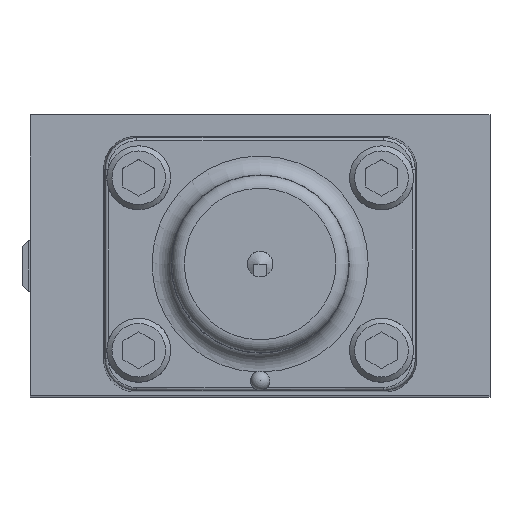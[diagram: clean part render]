
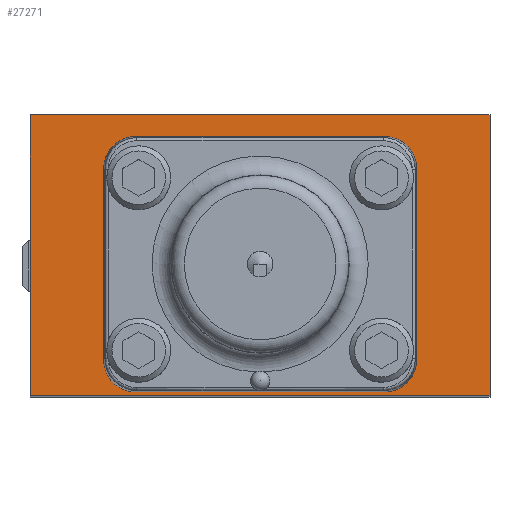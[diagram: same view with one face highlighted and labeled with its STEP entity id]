
A CAD part, top view. The second image highlights one B-rep face of the part: STEP entity #27271.
In plain terms, the highlighted planar face has unit normal (0, 0, 1).
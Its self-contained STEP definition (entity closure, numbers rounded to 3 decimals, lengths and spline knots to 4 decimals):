
#1075=FACE_BOUND('',#3692,.T.);
#1294=PLANE('',#29047);
#2098=FACE_OUTER_BOUND('',#3691,.T.);
#3691=EDGE_LOOP('',(#18031,#18032,#18033,#18034));
#3692=EDGE_LOOP('',(#18035,#18036,#18037,#18038,#18039,#18040,#18041,#18042));
#5491=CIRCLE('',#29048,0.4064);
#5492=CIRCLE('',#29049,0.4064);
#5493=CIRCLE('',#29050,0.4064);
#5494=CIRCLE('',#29051,0.4064);
#6876=LINE('',#41389,#8908);
#6877=LINE('',#41391,#8909);
#6878=LINE('',#41393,#8910);
#6879=LINE('',#41394,#8911);
#6880=LINE('',#41399,#8912);
#6881=LINE('',#41403,#8913);
#6882=LINE('',#41407,#8914);
#6883=LINE('',#41410,#8915);
#8908=VECTOR('',#32399,1.);
#8909=VECTOR('',#32400,1.);
#8910=VECTOR('',#32401,1.);
#8911=VECTOR('',#32402,1.);
#8912=VECTOR('',#32405,1.);
#8913=VECTOR('',#32408,1.);
#8914=VECTOR('',#32411,1.);
#8915=VECTOR('',#32414,1.);
#11081=VERTEX_POINT('',#41387);
#11082=VERTEX_POINT('',#41388);
#11083=VERTEX_POINT('',#41390);
#11084=VERTEX_POINT('',#41392);
#11085=VERTEX_POINT('',#41395);
#11086=VERTEX_POINT('',#41396);
#11087=VERTEX_POINT('',#41398);
#11088=VERTEX_POINT('',#41400);
#11089=VERTEX_POINT('',#41402);
#11090=VERTEX_POINT('',#41404);
#11091=VERTEX_POINT('',#41406);
#11092=VERTEX_POINT('',#41408);
#13763=EDGE_CURVE('',#11081,#11082,#6876,.T.);
#13764=EDGE_CURVE('',#11082,#11083,#6877,.T.);
#13765=EDGE_CURVE('',#11083,#11084,#6878,.T.);
#13766=EDGE_CURVE('',#11084,#11081,#6879,.T.);
#13767=EDGE_CURVE('',#11085,#11086,#5491,.T.);
#13768=EDGE_CURVE('',#11086,#11087,#6880,.T.);
#13769=EDGE_CURVE('',#11087,#11088,#5492,.T.);
#13770=EDGE_CURVE('',#11088,#11089,#6881,.T.);
#13771=EDGE_CURVE('',#11089,#11090,#5493,.T.);
#13772=EDGE_CURVE('',#11090,#11091,#6882,.T.);
#13773=EDGE_CURVE('',#11091,#11092,#5494,.T.);
#13774=EDGE_CURVE('',#11092,#11085,#6883,.T.);
#18031=ORIENTED_EDGE('',*,*,#13763,.T.);
#18032=ORIENTED_EDGE('',*,*,#13764,.T.);
#18033=ORIENTED_EDGE('',*,*,#13765,.T.);
#18034=ORIENTED_EDGE('',*,*,#13766,.T.);
#18035=ORIENTED_EDGE('',*,*,#13767,.T.);
#18036=ORIENTED_EDGE('',*,*,#13768,.T.);
#18037=ORIENTED_EDGE('',*,*,#13769,.T.);
#18038=ORIENTED_EDGE('',*,*,#13770,.T.);
#18039=ORIENTED_EDGE('',*,*,#13771,.T.);
#18040=ORIENTED_EDGE('',*,*,#13772,.T.);
#18041=ORIENTED_EDGE('',*,*,#13773,.T.);
#18042=ORIENTED_EDGE('',*,*,#13774,.T.);
#27271=ADVANCED_FACE('',(#2098,#1075),#1294,.T.);
#29047=AXIS2_PLACEMENT_3D('',#41386,#32397,#32398);
#29048=AXIS2_PLACEMENT_3D('',#41397,#32403,#32404);
#29049=AXIS2_PLACEMENT_3D('',#41401,#32406,#32407);
#29050=AXIS2_PLACEMENT_3D('',#41405,#32409,#32410);
#29051=AXIS2_PLACEMENT_3D('',#41409,#32412,#32413);
#32397=DIRECTION('center_axis',(0.,0.,1.));
#32398=DIRECTION('ref_axis',(1.,0.,0.));
#32399=DIRECTION('',(-1.,0.,0.));
#32400=DIRECTION('',(0.,-1.,0.));
#32401=DIRECTION('',(1.,0.,0.));
#32402=DIRECTION('',(0.,1.,0.));
#32403=DIRECTION('center_axis',(0.,0.,
-1.));
#32404=DIRECTION('ref_axis',(-1.,0.,0.));
#32405=DIRECTION('',(0.,-1.,0.));
#32406=DIRECTION('center_axis',(0.,0.,
-1.));
#32407=DIRECTION('ref_axis',(0.,1.,0.));
#32408=DIRECTION('',(-1.,0.,0.));
#32409=DIRECTION('center_axis',(0.,0.,
-1.));
#32410=DIRECTION('ref_axis',(1.,0.,0.));
#32411=DIRECTION('',(0.,1.,0.));
#32412=DIRECTION('center_axis',(0.,0.,
-1.));
#32413=DIRECTION('ref_axis',(0.,-1.,0.));
#32414=DIRECTION('',(1.,0.,0.));
#41386=CARTESIAN_POINT('Origin',(2.8575,0.,4.7104));
#41387=CARTESIAN_POINT('',(2.8575,1.8567,4.7104));
#41388=CARTESIAN_POINT('',(-2.8575,1.8567,4.7104));
#41389=CARTESIAN_POINT('',(2.8575,1.8567,4.7104));
#41390=CARTESIAN_POINT('',(-2.8575,-1.6358,4.7104));
#41391=CARTESIAN_POINT('',(-2.8575,0.,4.7104));
#41392=CARTESIAN_POINT('',(2.8575,-1.6358,4.7104));
#41393=CARTESIAN_POINT('',(2.8575,-1.6358,4.7104));
#41394=CARTESIAN_POINT('',(2.8575,0.,4.7104));
#41395=CARTESIAN_POINT('',(1.538,1.5875,4.7104));
#41396=CARTESIAN_POINT('',(1.9444,1.1811,4.7104));
#41397=CARTESIAN_POINT('Origin',(1.538,1.1811,4.7104));
#41398=CARTESIAN_POINT('',(1.9444,-1.1811,4.7104));
#41399=CARTESIAN_POINT('',(1.9444,1.1811,4.7104));
#41400=CARTESIAN_POINT('',(1.538,-1.5875,4.7104));
#41401=CARTESIAN_POINT('Origin',(1.538,-1.1811,4.7104));
#41402=CARTESIAN_POINT('',(-1.538,-1.5875,4.7104));
#41403=CARTESIAN_POINT('',(1.538,-1.5875,4.7104));
#41404=CARTESIAN_POINT('',(-1.9444,-1.1811,4.7104));
#41405=CARTESIAN_POINT('Origin',(-1.538,-1.1811,4.7104));
#41406=CARTESIAN_POINT('',(-1.9444,1.1811,4.7104));
#41407=CARTESIAN_POINT('',(-1.9444,-1.1811,4.7104));
#41408=CARTESIAN_POINT('',(-1.538,1.5875,4.7104));
#41409=CARTESIAN_POINT('Origin',(-1.538,1.1811,4.7104));
#41410=CARTESIAN_POINT('',(-1.538,1.5875,4.7104));
